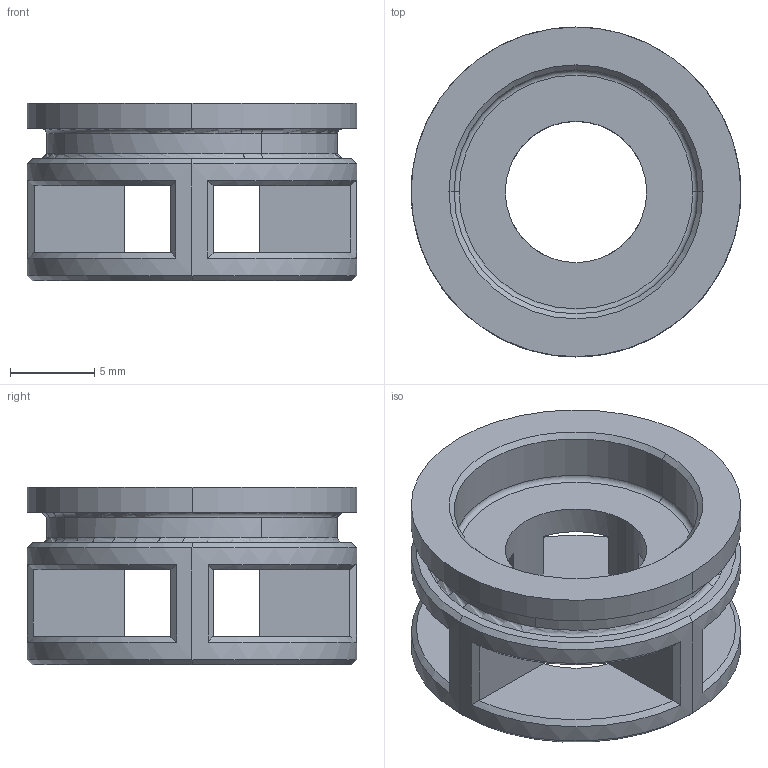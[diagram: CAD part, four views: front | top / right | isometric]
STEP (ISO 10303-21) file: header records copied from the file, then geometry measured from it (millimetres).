
FILE_DESCRIPTION(('CATIA V5 STEP Exchange'),'2;1');
FILE_NAME('C:\Users\Administrator\Desktop\H6（3.0平台）\VDC阀\2.过程数据\膜片式\气囊密封支撑圈.stp','2021-02-25T01:55:47+00:00',('none'),('none'),'CATIA Version 5 Release 20 GA (IN-10)','CATIA V5 STEP AP214','none');
FILE_SCHEMA(('AUTOMOTIVE_DESIGN { 1 0 10303 214 1 1 1 1 }'));
Length unit declared in the file: millimetre
Products named in the file (1): BPC0010079
Bounding box: 19.6 x 19.6 x 10.55 mm (x, y, z)
Volume: 1351.3 mm3; surface area: 1822.3 mm2
Topology: 1 solids, 1 shells, 73 faces, 188 edges, 120 vertices
Faces by surface type: plane 29, cone 18, cylinder 16, torus 10
Entity records: 2219 total; most frequent: CARTESIAN_POINT 525, ORIENTED_EDGE 376, DIRECTION 274, EDGE_CURVE 188, AXIS2_PLACEMENT_3D 139, VERTEX_POINT 120, EDGE_LOOP 86, CIRCLE 76
